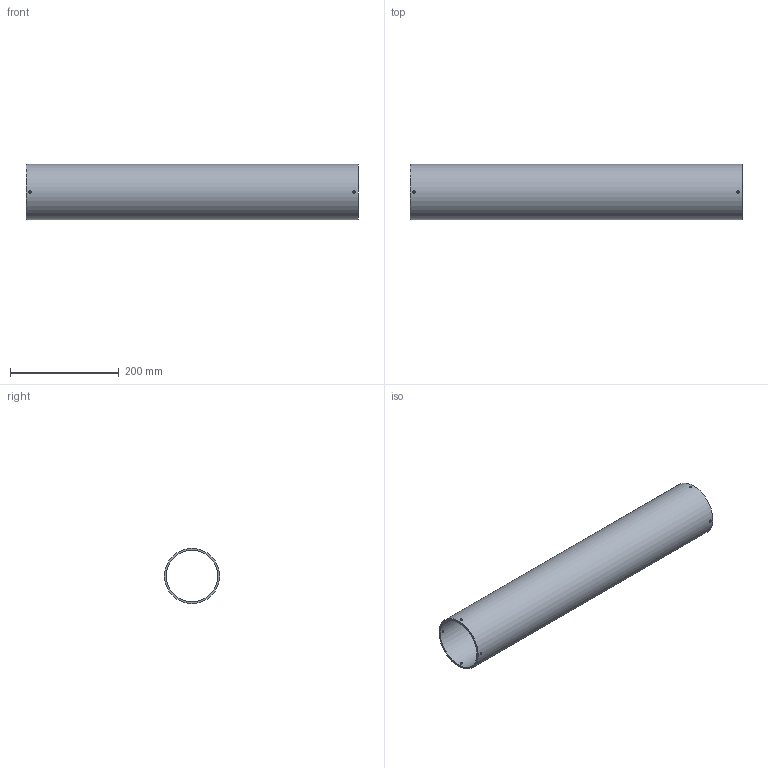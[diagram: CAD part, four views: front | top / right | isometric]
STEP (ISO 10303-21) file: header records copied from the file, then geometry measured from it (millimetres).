
FILE_DESCRIPTION(('Open CASCADE Model'),'2;1');
FILE_NAME('Open CASCADE Shape Model','2026-11-20T22:44:43',('Author'),( 'Open CASCADE'),'Open CASCADE STEP processor 7.8','Open CASCADE 7.8' ,'Unknown');
FILE_SCHEMA(('AUTOMOTIVE_DESIGN { 1 0 10303 214 1 1 1 1 }'));
Length unit declared in the file: millimetre
Products named in the file (1): Open CASCADE STEP translator 7.8 1
Bounding box: 609.6 x 101.6 x 101.6 mm (x, y, z)
Volume: 598068.9 mm3; surface area: 379058.4 mm2
Topology: 1 solids, 1 shells, 12 faces, 42 edges, 28 vertices
Faces by surface type: cylinder 10, plane 2
Full cylindrical faces by diameter (mm): 4.5 x8, 95.25 x1, 101.6 x1
Entity records: 3442 total; most frequent: CARTESIAN_POINT 2711, DIRECTION 84, ORIENTED_EDGE 84, PCURVE 84, DEFINITIONAL_REPRESENTATION 84, B_SPLINE_CURVE_WITH_KNOTS 72, LINE 46, VECTOR 46
